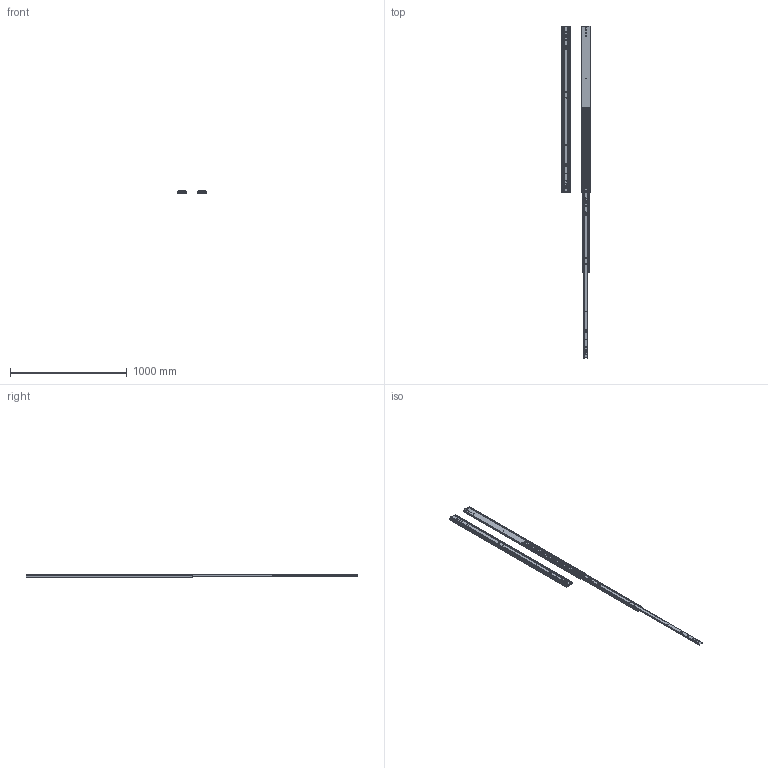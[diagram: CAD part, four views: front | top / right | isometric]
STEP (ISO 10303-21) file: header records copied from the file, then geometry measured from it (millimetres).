
FILE_DESCRIPTION((''),'2;1');
FILE_NAME('ASSEM1_1_2_3_4_5_6_7_8_9_10__25_ASM','2026-04-08T10:18:47',('T260078'),(''),'CREO PARAMETRIC BY PTC INC, 2025123','CREO PARAMETRIC BY PTC INC, 2025123','');
FILE_SCHEMA(('CONFIG_CONTROL_DESIGN','SHAPE_APPEARANCE_LAYERS_GROUPS'));
Length unit declared in the file: millimetre
Products named in the file (6): 76J01-56_X2_540B_X0_-M; 76J01-56_X2_540B_X0_-I; 76J01-56_X2_540B_X0_-O; 76J01-56_X2_540_X0__ASM; 76J01-56_X2_540B_X0_-_X2_5C5595_ASM; ASSEM1_1_2_3_4_5_6_7_8_9_10__25_ASM
Assembly tree (8 placements, depth 3):
  ASSEM1_1_2_3_4_5_6_7_8_9_10__25_ASM
    76J01-56_X2_540_X0__ASM
      76J01-56_X2_540B_X0_-M
      76J01-56_X2_540B_X0_-I
      76J01-56_X2_540B_X0_-O
    76J01-56_X2_540B_X0_-_X2_5C5595_ASM
      76J01-56_X2_540B_X0_-M
      76J01-56_X2_540B_X0_-I
      76J01-56_X2_540B_X0_-O
Bounding box: 245.44 x 2844.8 x 19.3 mm (x, y, z)
Volume: 1763638.8 mm3; surface area: 1570703.3 mm2
Topology: 6 solids, 6 shells, 380 faces, 1228 edges, 848 vertices
Faces by surface type: cylinder 212, plane 168
Entity records: 8392 total; most frequent: CARTESIAN_POINT 1337, DIRECTION 1244, ORIENTED_EDGE 1228, EDGE_CURVE 614, AXIS2_PLACEMENT_3D 444, VERTEX_POINT 424, VECTOR 356, LINE 356
